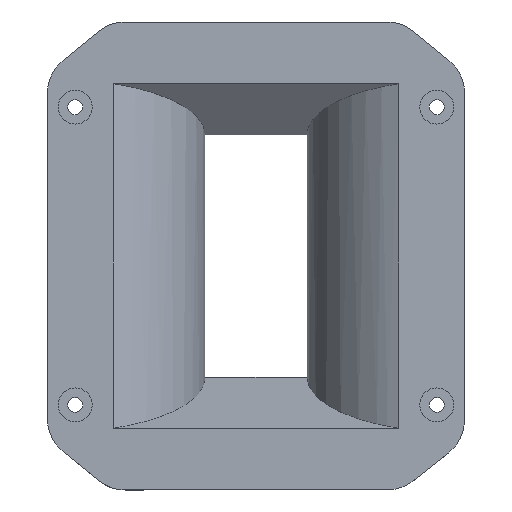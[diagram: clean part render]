
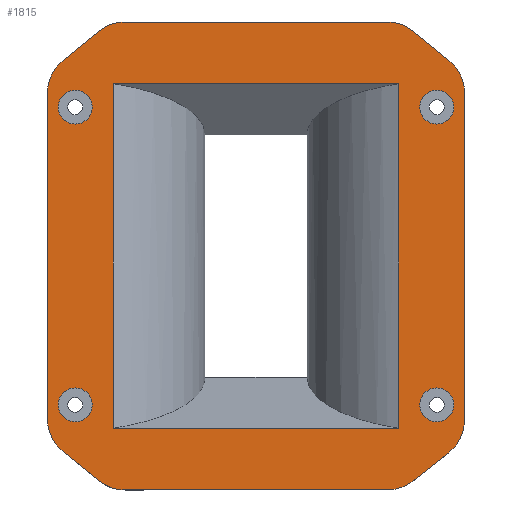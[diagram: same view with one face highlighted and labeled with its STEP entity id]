
A CAD part, top view. The second image highlights one B-rep face of the part: STEP entity #1815.
In plain terms, the highlighted planar face has unit normal (0, 0, 1).
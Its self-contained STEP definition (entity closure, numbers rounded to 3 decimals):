
#57=FACE_BOUND('',#376,.T.);
#58=FACE_BOUND('',#377,.T.);
#59=FACE_BOUND('',#378,.T.);
#60=FACE_BOUND('',#379,.T.);
#61=FACE_BOUND('',#380,.T.);
#62=FACE_BOUND('',#381,.T.);
#376=EDGE_LOOP('',(#1642,#1643,#1644,#1645));
#377=EDGE_LOOP('',(#1646));
#378=EDGE_LOOP('',(#1647));
#379=EDGE_LOOP('',(#1648));
#380=EDGE_LOOP('',(#1649));
#381=EDGE_LOOP('',(#1650,#1651,#1652,#1653,#1654,#1655,#1656,#1657,#1658,
#1659,#1660,#1661,#1662,#1663,#1664,#1665));
#477=LINE('',#3244,#613);
#479=LINE('',#3262,#615);
#491=LINE('',#3310,#627);
#492=LINE('',#3313,#628);
#500=LINE('',#3374,#636);
#501=LINE('',#3377,#637);
#504=LINE('',#3385,#640);
#507=LINE('',#3392,#643);
#508=LINE('',#3395,#644);
#511=LINE('',#3403,#647);
#514=LINE('',#3411,#650);
#517=LINE('',#3418,#653);
#613=VECTOR('',#2327,81.);
#615=VECTOR('',#2349,81.);
#627=VECTOR('',#2393,67.);
#628=VECTOR('',#2398,67.);
#636=VECTOR('',#2476,76.733);
#637=VECTOR('',#2479,10.511);
#640=VECTOR('',#2488,61.522);
#643=VECTOR('',#2497,10.644);
#644=VECTOR('',#2500,76.521);
#647=VECTOR('',#2509,10.644);
#650=VECTOR('',#2518,61.522);
#653=VECTOR('',#2527,10.644);
#714=CIRCLE('',#1960,10.);
#715=CIRCLE('',#1963,10.);
#716=CIRCLE('',#1965,10.);
#718=CIRCLE('',#1969,4.);
#721=CIRCLE('',#1974,4.);
#724=CIRCLE('',#1979,4.);
#727=CIRCLE('',#1984,4.);
#729=CIRCLE('',#1994,10.);
#730=CIRCLE('',#1997,10.);
#731=CIRCLE('',#2001,10.);
#732=CIRCLE('',#2004,10.);
#733=CIRCLE('',#2007,10.);
#854=VERTEX_POINT('',#3240);
#855=VERTEX_POINT('',#3242);
#860=VERTEX_POINT('',#3259);
#861=VERTEX_POINT('',#3261);
#882=VERTEX_POINT('',#3318);
#883=VERTEX_POINT('',#3319);
#884=VERTEX_POINT('',#3325);
#885=VERTEX_POINT('',#3326);
#886=VERTEX_POINT('',#3331);
#887=VERTEX_POINT('',#3333);
#889=VERTEX_POINT('',#3340);
#892=VERTEX_POINT('',#3348);
#895=VERTEX_POINT('',#3356);
#898=VERTEX_POINT('',#3364);
#900=VERTEX_POINT('',#3376);
#901=VERTEX_POINT('',#3380);
#902=VERTEX_POINT('',#3384);
#903=VERTEX_POINT('',#3388);
#904=VERTEX_POINT('',#3394);
#905=VERTEX_POINT('',#3398);
#906=VERTEX_POINT('',#3402);
#907=VERTEX_POINT('',#3406);
#908=VERTEX_POINT('',#3410);
#909=VERTEX_POINT('',#3414);
#1083=EDGE_CURVE('',#854,#855,#477,.T.);
#1090=EDGE_CURVE('',#861,#860,#479,.T.);
#1115=EDGE_CURVE('',#860,#854,#491,.T.);
#1116=EDGE_CURVE('',#855,#861,#492,.T.);
#1118=EDGE_CURVE('',#882,#883,#714,.T.);
#1121=EDGE_CURVE('',#884,#885,#715,.T.);
#1125=EDGE_CURVE('',#887,#886,#716,.T.);
#1128=EDGE_CURVE('',#889,#889,#718,.T.);
#1131=EDGE_CURVE('',#892,#892,#721,.T.);
#1134=EDGE_CURVE('',#895,#895,#724,.T.);
#1137=EDGE_CURVE('',#898,#898,#727,.T.);
#1139=EDGE_CURVE('',#886,#882,#500,.T.);
#1140=EDGE_CURVE('',#900,#887,#501,.T.);
#1142=EDGE_CURVE('',#901,#900,#729,.T.);
#1144=EDGE_CURVE('',#902,#901,#504,.T.);
#1146=EDGE_CURVE('',#903,#902,#730,.T.);
#1148=EDGE_CURVE('',#885,#903,#507,.T.);
#1149=EDGE_CURVE('',#904,#884,#508,.T.);
#1151=EDGE_CURVE('',#905,#904,#731,.T.);
#1153=EDGE_CURVE('',#906,#905,#511,.T.);
#1155=EDGE_CURVE('',#907,#906,#732,.T.);
#1157=EDGE_CURVE('',#908,#907,#514,.T.);
#1159=EDGE_CURVE('',#909,#908,#733,.T.);
#1161=EDGE_CURVE('',#883,#909,#517,.T.);
#1642=ORIENTED_EDGE('',*,*,#1115,.T.);
#1643=ORIENTED_EDGE('',*,*,#1083,.T.);
#1644=ORIENTED_EDGE('',*,*,#1116,.T.);
#1645=ORIENTED_EDGE('',*,*,#1090,.T.);
#1646=ORIENTED_EDGE('',*,*,#1134,.T.);
#1647=ORIENTED_EDGE('',*,*,#1137,.T.);
#1648=ORIENTED_EDGE('',*,*,#1128,.T.);
#1649=ORIENTED_EDGE('',*,*,#1131,.T.);
#1650=ORIENTED_EDGE('',*,*,#1151,.T.);
#1651=ORIENTED_EDGE('',*,*,#1149,.T.);
#1652=ORIENTED_EDGE('',*,*,#1121,.T.);
#1653=ORIENTED_EDGE('',*,*,#1148,.T.);
#1654=ORIENTED_EDGE('',*,*,#1146,.T.);
#1655=ORIENTED_EDGE('',*,*,#1144,.T.);
#1656=ORIENTED_EDGE('',*,*,#1142,.T.);
#1657=ORIENTED_EDGE('',*,*,#1140,.T.);
#1658=ORIENTED_EDGE('',*,*,#1125,.T.);
#1659=ORIENTED_EDGE('',*,*,#1139,.T.);
#1660=ORIENTED_EDGE('',*,*,#1118,.T.);
#1661=ORIENTED_EDGE('',*,*,#1161,.T.);
#1662=ORIENTED_EDGE('',*,*,#1159,.T.);
#1663=ORIENTED_EDGE('',*,*,#1157,.T.);
#1664=ORIENTED_EDGE('',*,*,#1155,.T.);
#1665=ORIENTED_EDGE('',*,*,#1153,.T.);
#1712=PLANE('',#2009);
#1815=ADVANCED_FACE('',(#57,#58,#59,#60,#61,#62),#1712,.T.);
#1960=AXIS2_PLACEMENT_3D('',#3320,#2406,#2407);
#1963=AXIS2_PLACEMENT_3D('',#3327,#2414,#2415);
#1965=AXIS2_PLACEMENT_3D('',#3334,#2421,#2422);
#1969=AXIS2_PLACEMENT_3D('',#3341,#2430,#2431);
#1974=AXIS2_PLACEMENT_3D('',#3349,#2440,#2441);
#1979=AXIS2_PLACEMENT_3D('',#3357,#2450,#2451);
#1984=AXIS2_PLACEMENT_3D('',#3365,#2460,#2461);
#1994=AXIS2_PLACEMENT_3D('',#3381,#2483,#2484);
#1997=AXIS2_PLACEMENT_3D('',#3389,#2492,#2493);
#2001=AXIS2_PLACEMENT_3D('',#3399,#2504,#2505);
#2004=AXIS2_PLACEMENT_3D('',#3407,#2513,#2514);
#2007=AXIS2_PLACEMENT_3D('',#3415,#2522,#2523);
#2009=AXIS2_PLACEMENT_3D('',#3419,#2528,#2529);
#2327=DIRECTION('',(0.,-1.,0.));
#2349=DIRECTION('',(0.,1.,0.));
#2393=DIRECTION('',(1.,0.,0.));
#2398=DIRECTION('',(-1.,0.,0.));
#2406=DIRECTION('center_axis',(0.,0.,1.));
#2407=DIRECTION('ref_axis',(-1.,0.,0.));
#2414=DIRECTION('center_axis',(0.,0.,1.));
#2415=DIRECTION('ref_axis',(1.,0.,0.));
#2421=DIRECTION('center_axis',(0.,0.,1.));
#2422=DIRECTION('ref_axis',(-0.621,0.784,0.));
#2430=DIRECTION('center_axis',(0.,0.,-1.));
#2431=DIRECTION('ref_axis',(-1.,0.,0.));
#2440=DIRECTION('center_axis',(0.,0.,-1.));
#2441=DIRECTION('ref_axis',(-1.,0.,0.));
#2450=DIRECTION('center_axis',(0.,0.,-1.));
#2451=DIRECTION('ref_axis',(-1.,0.,0.));
#2460=DIRECTION('center_axis',(0.,0.,-1.));
#2461=DIRECTION('ref_axis',(-1.,0.,0.));
#2476=DIRECTION('',(0.,1.,0.));
#2479=DIRECTION('',(0.784,0.621,0.));
#2483=DIRECTION('center_axis',(0.,0.,1.));
#2484=DIRECTION('ref_axis',(0.,1.,0.));
#2488=DIRECTION('',(1.,0.,0.));
#2492=DIRECTION('center_axis',(0.,0.,1.));
#2493=DIRECTION('ref_axis',(0.633,0.774,0.));
#2497=DIRECTION('',(0.774,-0.633,0.));
#2500=DIRECTION('',(0.,-1.,0.));
#2504=DIRECTION('center_axis',(0.,0.,1.));
#2505=DIRECTION('ref_axis',(0.633,-0.774,0.));
#2509=DIRECTION('',(-0.774,-0.633,0.));
#2513=DIRECTION('center_axis',(0.,0.,1.));
#2514=DIRECTION('ref_axis',(0.,-1.,0.));
#2518=DIRECTION('',(-1.,0.,0.));
#2522=DIRECTION('center_axis',(0.,0.,1.));
#2523=DIRECTION('ref_axis',(-0.633,-0.774,0.));
#2527=DIRECTION('',(-0.774,0.633,0.));
#2528=DIRECTION('center_axis',(0.,0.,1.));
#2529=DIRECTION('ref_axis',(1.,0.,0.));
#3240=CARTESIAN_POINT('',(51.368,37.477,3.));
#3242=CARTESIAN_POINT('',(51.368,-43.523,3.));
#3244=CARTESIAN_POINT('',(51.368,-23.279,3.));
#3259=CARTESIAN_POINT('',(-15.632,37.477,3.));
#3261=CARTESIAN_POINT('',(-15.632,-43.523,3.));
#3262=CARTESIAN_POINT('',(-15.632,17.221,3.));
#3310=CARTESIAN_POINT('',(34.625,37.477,3.));
#3313=CARTESIAN_POINT('',(1.125,-43.523,3.));
#3318=CARTESIAN_POINT('',(66.868,35.237,3.));
#3319=CARTESIAN_POINT('',(63.2,42.978,3.));
#3320=CARTESIAN_POINT('Origin',(56.868,35.237,3.));
#3325=CARTESIAN_POINT('',(-31.132,-41.284,3.));
#3326=CARTESIAN_POINT('',(-27.463,-49.024,3.));
#3327=CARTESIAN_POINT('Origin',(-21.132,-41.284,3.));
#3331=CARTESIAN_POINT('',(66.868,-41.496,3.));
#3333=CARTESIAN_POINT('',(63.078,-49.334,3.));
#3334=CARTESIAN_POINT('Origin',(56.868,-41.496,3.));
#3340=CARTESIAN_POINT('',(-20.632,-38.023,3.));
#3341=CARTESIAN_POINT('Origin',(-24.632,-38.023,3.));
#3348=CARTESIAN_POINT('',(-20.632,31.977,3.));
#3349=CARTESIAN_POINT('Origin',(-24.632,31.977,3.));
#3356=CARTESIAN_POINT('',(64.368,31.977,3.));
#3357=CARTESIAN_POINT('Origin',(60.368,31.977,3.));
#3364=CARTESIAN_POINT('',(64.368,-38.023,3.));
#3365=CARTESIAN_POINT('Origin',(60.368,-38.023,3.));
#3374=CARTESIAN_POINT('',(66.868,35.237,3.));
#3376=CARTESIAN_POINT('',(54.839,-55.861,3.));
#3377=CARTESIAN_POINT('',(63.078,-49.334,3.));
#3380=CARTESIAN_POINT('',(48.629,-58.023,3.));
#3381=CARTESIAN_POINT('Origin',(48.629,-48.023,3.));
#3384=CARTESIAN_POINT('',(-12.893,-58.023,3.));
#3385=CARTESIAN_POINT('',(48.629,-58.023,3.));
#3388=CARTESIAN_POINT('',(-19.224,-55.763,3.));
#3389=CARTESIAN_POINT('Origin',(-12.893,-48.023,3.));
#3392=CARTESIAN_POINT('',(-19.224,-55.763,3.));
#3394=CARTESIAN_POINT('',(-31.132,35.237,3.));
#3395=CARTESIAN_POINT('',(-31.132,-41.284,3.));
#3398=CARTESIAN_POINT('',(-27.463,42.978,3.));
#3399=CARTESIAN_POINT('Origin',(-21.132,35.237,3.));
#3402=CARTESIAN_POINT('',(-19.224,49.717,3.));
#3403=CARTESIAN_POINT('',(-27.463,42.978,3.));
#3406=CARTESIAN_POINT('',(-12.893,51.977,3.));
#3407=CARTESIAN_POINT('Origin',(-12.893,41.977,3.));
#3410=CARTESIAN_POINT('',(48.629,51.977,3.));
#3411=CARTESIAN_POINT('',(-12.893,51.977,3.));
#3414=CARTESIAN_POINT('',(54.961,49.717,3.));
#3415=CARTESIAN_POINT('Origin',(48.629,41.977,3.));
#3418=CARTESIAN_POINT('',(54.961,49.717,3.));
#3419=CARTESIAN_POINT('Origin',(17.881,-3.035,3.));
